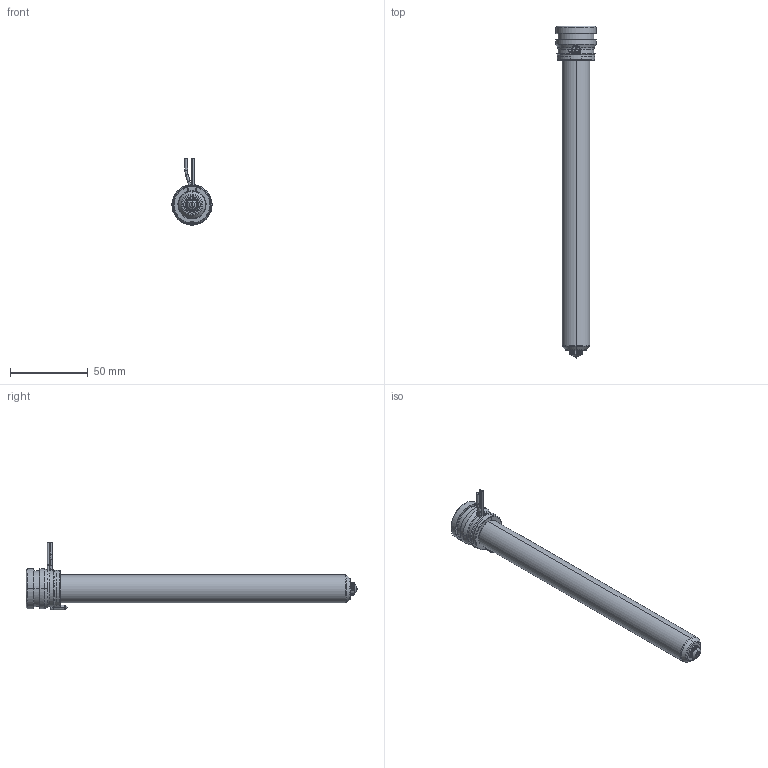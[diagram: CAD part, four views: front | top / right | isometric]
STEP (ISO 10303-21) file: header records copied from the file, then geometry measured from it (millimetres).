
FILE_DESCRIPTION((''),'2;1');
FILE_NAME('MPN-08-24-VS8-196-A','2026-02-05T11:59:07',('UPTIO'),('Thermoplay S.p.A.'),'CREO PARAMETRIC BY PTC INC, 2023494','CREO PARAMETRIC BY PTC INC, 2023494','');
FILE_SCHEMA(('CONFIG_CONTROL_DESIGN','SHAPE_APPEARANCE_LAYERS_GROUPS'));
Length unit declared in the file: millimetre
Products named in the file (1): MPN-08-24-VS8-196-A
Bounding box: 26 x 214 x 43.5 mm (x, y, z)
Volume: 39664.2 mm3; surface area: 52348.8 mm2
Topology: 2 solids, 3 shells, 543 faces, 1434 edges, 889 vertices
Faces by surface type: cylinder 180, plane 143, bspline 82, torus 62, cone 60, sphere 10, extrusion 6
Entity records: 29216 total; most frequent: CARTESIAN_POINT 13040, ORIENTED_EDGE 2852, DIRECTION 2568, EDGE_CURVE 1426, AXIS2_PLACEMENT_3D 1003, VERTEX_POINT 889, EDGE_LOOP 571, VECTOR 562
